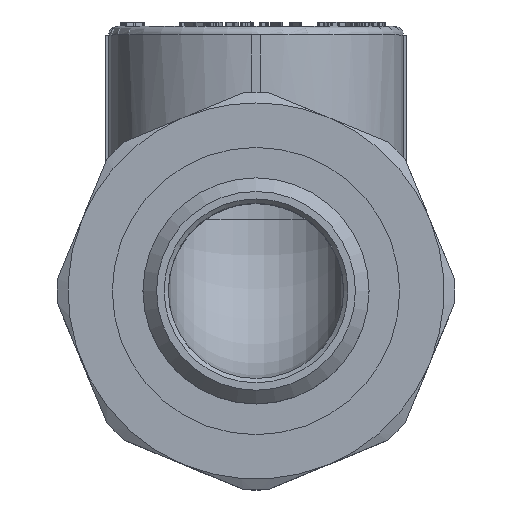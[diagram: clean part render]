
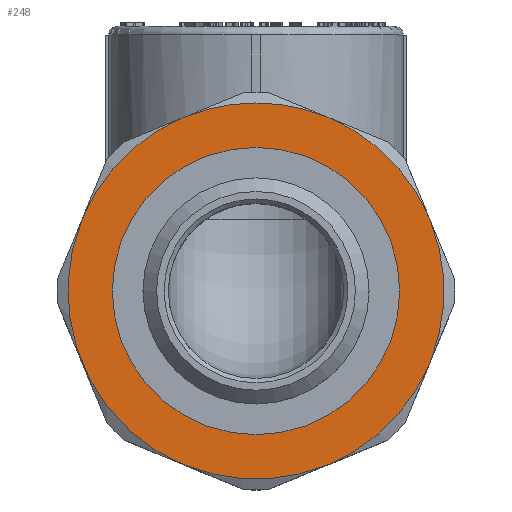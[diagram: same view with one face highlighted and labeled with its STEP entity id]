
A CAD part, top view. The second image highlights one B-rep face of the part: STEP entity #248.
In plain terms, the highlighted planar face has unit normal (0, 0, 1).
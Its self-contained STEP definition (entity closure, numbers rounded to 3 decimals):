
#248=ADVANCED_FACE('',(#959,#961),#963,.T.);
#959=FACE_BOUND('',#960,.T.);
#960=EDGE_LOOP('',(#5866));
#961=FACE_BOUND('',#962,.T.);
#962=EDGE_LOOP('',(#5867));
#963=PLANE('',#964);
#964=AXIS2_PLACEMENT_3D('',#965,#966,#967);
#965=CARTESIAN_POINT('',(0.,0.,35.));
#966=DIRECTION('',(0.,0.,1.));
#967=DIRECTION('',(-1.,0.,0.));
#5866=ORIENTED_EDGE('',*,*,#10476,.T.);
#5867=ORIENTED_EDGE('',*,*,#10477,.T.);
#10476=EDGE_CURVE('',#12301,#12301,#12302,.F.);
#10477=EDGE_CURVE('',#12303,#12303,#12304,.T.);
#12301=VERTEX_POINT('',#15357);
#12302=CIRCLE('',#15358,22.);
#12303=VERTEX_POINT('',#15362);
#12304=CIRCLE('',#15363,16.8);
#15357=CARTESIAN_POINT('',(0.,22.,35.));
#15358=AXIS2_PLACEMENT_3D('',#15359,#15360,#15361);
#15359=CARTESIAN_POINT('',(0.,0.,35.));
#15360=DIRECTION('',(0.,0.,-1.));
#15361=DIRECTION('',(0.,1.,0.));
#15362=CARTESIAN_POINT('',(16.8,0.,35.));
#15363=AXIS2_PLACEMENT_3D('',#15364,#15365,#15366);
#15364=CARTESIAN_POINT('',(0.,0.,35.));
#15365=DIRECTION('',(0.,0.,-1.));
#15366=DIRECTION('',(1.,0.,0.));
